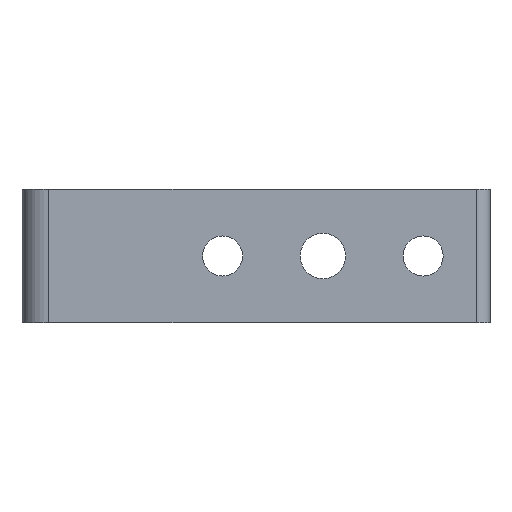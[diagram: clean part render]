
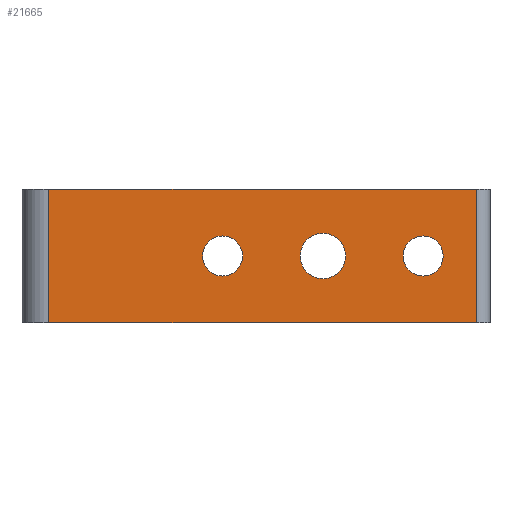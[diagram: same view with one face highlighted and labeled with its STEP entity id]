
A CAD part, front view. The second image highlights one B-rep face of the part: STEP entity #21665.
In plain terms, the highlighted planar face has unit normal (0, -1, 0).
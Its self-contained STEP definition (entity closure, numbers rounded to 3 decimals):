
#76 = ORIENTED_EDGE ( 'NONE', *, *, #13802, .F. ) ;
#593 = VECTOR ( 'NONE', #6032, 1000. ) ;
#952 = VECTOR ( 'NONE', #3362, 1000. ) ;
#954 = PLANE ( 'NONE',  #1592 ) ;
#1114 = EDGE_CURVE ( 'NONE', #31243, #7088, #30503, .T. ) ;
#1130 = CARTESIAN_POINT ( 'NONE',  ( 0., 0., 10. ) ) ;
#1313 = CARTESIAN_POINT ( 'NONE',  ( 0., 0., -10. ) ) ;
#1498 = CARTESIAN_POINT ( 'NONE',  ( 68., 0., -10. ) ) ;
#1592 = AXIS2_PLACEMENT_3D ( 'NONE', #6322, #24917, #8927 ) ;
#2410 = AXIS2_PLACEMENT_3D ( 'NONE', #6591, #25193, #9218 ) ;
#3241 = CARTESIAN_POINT ( 'NONE',  ( 68., 0., 10. ) ) ;
#3362 = DIRECTION ( 'NONE',  ( 1., 0., 0. ) ) ;
#4014 = DIRECTION ( 'NONE',  ( 0., -1., 0. ) ) ;
#4670 = FACE_BOUND ( 'NONE', #18768, .T. ) ;
#4950 = EDGE_CURVE ( 'NONE', #34320, #21891, #32397, .T. ) ;
#6032 = DIRECTION ( 'NONE',  ( 0., 0., -1. ) ) ;
#6312 = CARTESIAN_POINT ( 'NONE',  ( 45., 0., 0. ) ) ;
#6322 = CARTESIAN_POINT ( 'NONE',  ( 0., 0., 10. ) ) ;
#6492 = DIRECTION ( 'NONE',  ( 0., -1., 0. ) ) ;
#6591 = CARTESIAN_POINT ( 'NONE',  ( 60., 0., 0. ) ) ;
#6911 = AXIS2_PLACEMENT_3D ( 'NONE', #19962, #4014, #22618 ) ;
#6934 = LINE ( 'NONE', #3241, #13185 ) ;
#6946 = VERTEX_POINT ( 'NONE', #23938 ) ;
#7088 = VERTEX_POINT ( 'NONE', #11822 ) ;
#7818 = CARTESIAN_POINT ( 'NONE',  ( 68., 0., 10. ) ) ;
#8545 = DIRECTION ( 'NONE',  ( 0., 0., 1. ) ) ;
#8669 = EDGE_LOOP ( 'NONE', ( #32973, #25412 ) ) ;
#8917 = DIRECTION ( 'NONE',  ( 0., 0., -1. ) ) ;
#8927 = DIRECTION ( 'NONE',  ( 0., 0., 1. ) ) ;
#8982 = EDGE_LOOP ( 'NONE', ( #21970, #27587, #76, #22695 ) ) ;
#9218 = DIRECTION ( 'NONE',  ( 0., 0., -1. ) ) ;
#9627 = EDGE_CURVE ( 'NONE', #6946, #23988, #14548, .T. ) ;
#9923 = CARTESIAN_POINT ( 'NONE',  ( 60., 0., 3. ) ) ;
#10088 = AXIS2_PLACEMENT_3D ( 'NONE', #26743, #10787, #29421 ) ;
#10551 = EDGE_CURVE ( 'NONE', #23988, #27087, #6934, .T. ) ;
#10604 = EDGE_CURVE ( 'NONE', #21891, #34320, #23137, .T. ) ;
#10707 = VERTEX_POINT ( 'NONE', #14739 ) ;
#10787 = DIRECTION ( 'NONE',  ( 0., -1., 0. ) ) ;
#10917 = FACE_OUTER_BOUND ( 'NONE', #8982, .T. ) ;
#11734 = FACE_BOUND ( 'NONE', #8669, .T. ) ;
#11822 = CARTESIAN_POINT ( 'NONE',  ( 60., 0., -3. ) ) ;
#12165 = CARTESIAN_POINT ( 'NONE',  ( 4., 0., 10. ) ) ;
#13185 = VECTOR ( 'NONE', #8545, 1000. ) ;
#13216 = EDGE_CURVE ( 'NONE', #10707, #19061, #33041, .T. ) ;
#13295 = EDGE_CURVE ( 'NONE', #16873, #6946, #28076, .T. ) ;
#13641 = AXIS2_PLACEMENT_3D ( 'NONE', #31469, #15532, #34127 ) ;
#13802 = EDGE_CURVE ( 'NONE', #16873, #27087, #28445, .T. ) ;
#14238 = CARTESIAN_POINT ( 'NONE',  ( 30., 0., 3. ) ) ;
#14548 = LINE ( 'NONE', #1313, #27889 ) ;
#14739 = CARTESIAN_POINT ( 'NONE',  ( 30., 0., -3. ) ) ;
#15532 = DIRECTION ( 'NONE',  ( 0., -1., 0. ) ) ;
#16054 = ORIENTED_EDGE ( 'NONE', *, *, #30878, .F. ) ;
#16873 = VERTEX_POINT ( 'NONE', #12165 ) ;
#16908 = CIRCLE ( 'NONE', #6911, 3. ) ;
#18768 = EDGE_LOOP ( 'NONE', ( #31174, #33489 ) ) ;
#18846 = FACE_BOUND ( 'NONE', #29330, .T. ) ;
#18866 = CIRCLE ( 'NONE', #2410, 3. ) ;
#19061 = VERTEX_POINT ( 'NONE', #14238 ) ;
#19962 = CARTESIAN_POINT ( 'NONE',  ( 30., 0., 0. ) ) ;
#21665 = ADVANCED_FACE ( 'NONE', ( #11734, #18846, #10917, #4670 ), #954, .F. ) ;
#21891 = VERTEX_POINT ( 'NONE', #23130 ) ;
#21970 = ORIENTED_EDGE ( 'NONE', *, *, #9627, .T. ) ;
#22421 = CARTESIAN_POINT ( 'NONE',  ( 45., 0., 0. ) ) ;
#22618 = DIRECTION ( 'NONE',  ( 0., 0., -1. ) ) ;
#22695 = ORIENTED_EDGE ( 'NONE', *, *, #13295, .T. ) ;
#23130 = CARTESIAN_POINT ( 'NONE',  ( 45., 0., -3.4 ) ) ;
#23137 = CIRCLE ( 'NONE', #30529, 3.4 ) ;
#23938 = CARTESIAN_POINT ( 'NONE',  ( 4., 0., -10. ) ) ;
#23988 = VERTEX_POINT ( 'NONE', #1498 ) ;
#24640 = CARTESIAN_POINT ( 'NONE',  ( 4., 0., 10. ) ) ;
#24902 = DIRECTION ( 'NONE',  ( 0., -1., 0. ) ) ;
#24917 = DIRECTION ( 'NONE',  ( 0., 1., 0. ) ) ;
#25098 = DIRECTION ( 'NONE',  ( 0., 0., -1. ) ) ;
#25193 = DIRECTION ( 'NONE',  ( 0., -1., 0. ) ) ;
#25277 = DIRECTION ( 'NONE',  ( 1., 0., 0. ) ) ;
#25412 = ORIENTED_EDGE ( 'NONE', *, *, #33744, .F. ) ;
#26743 = CARTESIAN_POINT ( 'NONE',  ( 30., 0., 0. ) ) ;
#27087 = VERTEX_POINT ( 'NONE', #7818 ) ;
#27587 = ORIENTED_EDGE ( 'NONE', *, *, #10551, .T. ) ;
#27889 = VECTOR ( 'NONE', #25277, 1000. ) ;
#28076 = LINE ( 'NONE', #24640, #593 ) ;
#28445 = LINE ( 'NONE', #1130, #952 ) ;
#28633 = ORIENTED_EDGE ( 'NONE', *, *, #1114, .F. ) ;
#29330 = EDGE_LOOP ( 'NONE', ( #16054, #28633 ) ) ;
#29421 = DIRECTION ( 'NONE',  ( 0., 0., -1. ) ) ;
#30503 = CIRCLE ( 'NONE', #13641, 3. ) ;
#30529 = AXIS2_PLACEMENT_3D ( 'NONE', #22421, #6492, #25098 ) ;
#30878 = EDGE_CURVE ( 'NONE', #7088, #31243, #18866, .T. ) ;
#31174 = ORIENTED_EDGE ( 'NONE', *, *, #10604, .F. ) ;
#31243 = VERTEX_POINT ( 'NONE', #9923 ) ;
#31469 = CARTESIAN_POINT ( 'NONE',  ( 60., 0., 0. ) ) ;
#32397 = CIRCLE ( 'NONE', #33524, 3.4 ) ;
#32973 = ORIENTED_EDGE ( 'NONE', *, *, #13216, .F. ) ;
#33041 = CIRCLE ( 'NONE', #10088, 3. ) ;
#33266 = CARTESIAN_POINT ( 'NONE',  ( 45., 0., 3.4 ) ) ;
#33489 = ORIENTED_EDGE ( 'NONE', *, *, #4950, .F. ) ;
#33524 = AXIS2_PLACEMENT_3D ( 'NONE', #6312, #24902, #8917 ) ;
#33744 = EDGE_CURVE ( 'NONE', #19061, #10707, #16908, .T. ) ;
#34127 = DIRECTION ( 'NONE',  ( 0., 0., -1. ) ) ;
#34320 = VERTEX_POINT ( 'NONE', #33266 ) ;
